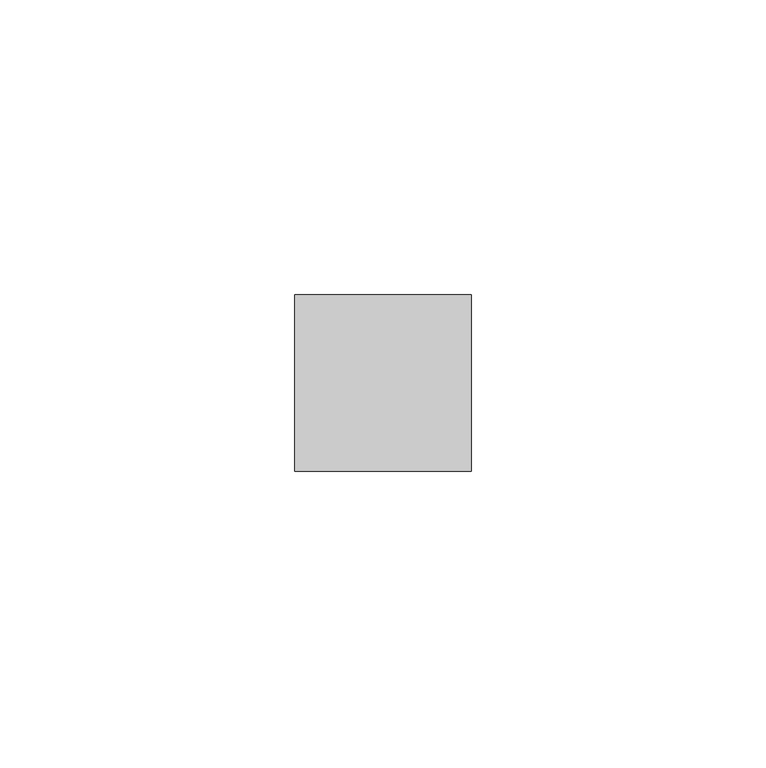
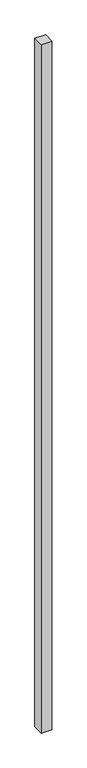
"""IFC4 building model written with IfcOpenShell, lengths in millimetres: member geometry, 矩形竖梃 : 30mm 正方形."""

from ifc_helpers import new_model, si_unit, frame, origin, place, context, project, spatial, polyline, outline, extrude, source, transform, mapped, element, save


def member_8a8b1aba(model_context):
    return source(origin(), model_context, "Body", "SweptSolid", [
        extrude(outline(polyline([(0.0, 15.0), (0.0, -15.0), (-30.0, -15.0), (-30.0, 15.0), (0.0, 15.0)])), frame((0.0, 0.0, -2040.0), z_axis=(0.0, 0.0, 1.0), x_axis=(1.0, 0.0, 0.0)), (0.0, 0.0, 1.0), 2040.0),
    ])


if __name__ == "__main__":
    model = new_model("IFC4")
    model_context = context("Model", 3, world=origin())
    ifc_project = project(units=[si_unit("LENGTHUNIT", "METRE", prefix="MILLI")], contexts=[model_context])
    site = spatial("IfcSite", under=ifc_project)
    building = spatial("IfcBuilding", under=site)
    placement = place(None, origin())
    member_shape = member_8a8b1aba(model_context)
    element("IfcMember", 1, ObjectType="矩形竖梃 : 30mm 正方形", at=placement, inside=building, context=model_context, shape_type="MappedRepresentation", body=[
        mapped(member_shape, transform((0.0, 0.0, 0.0), x_axis=(1.0, 0.0, 0.0), y_axis=(0.0, 1.0, 0.0), z_axis=(0.0, 0.0, 1.0))),
    ])
    save(model, "model.ifc")
